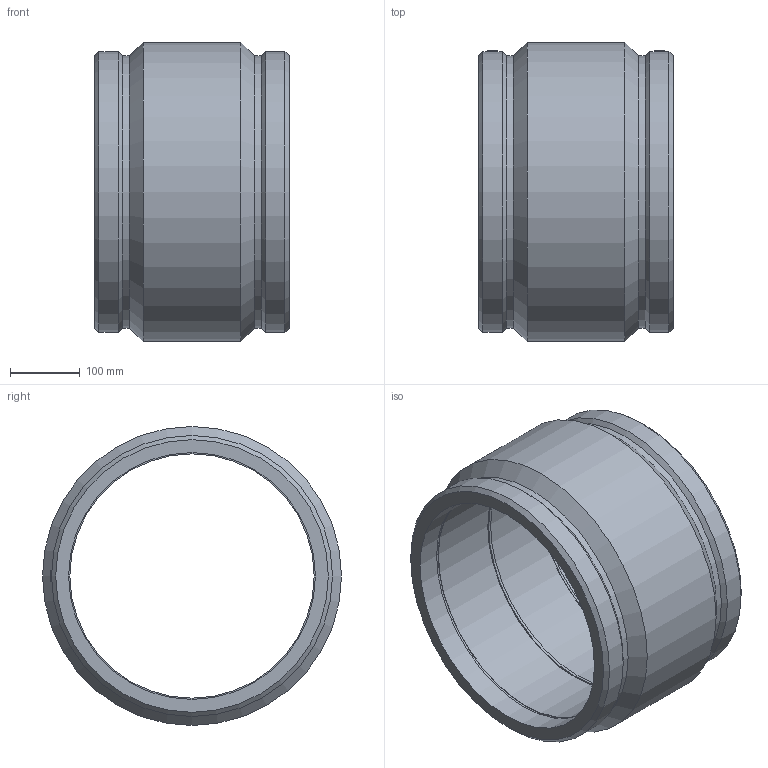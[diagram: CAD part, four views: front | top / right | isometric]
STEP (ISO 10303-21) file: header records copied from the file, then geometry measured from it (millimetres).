
FILE_DESCRIPTION(/* description */ ('PLASSON COUPLER 355 PN25'),/* implementation_level */ '2;1');
FILE_NAME(/* name */ 'C:\Dropbox\KIMPROJECTS-Inventor\99-16-3568-Processing\ElectroFusion Fittings\24.01.19\450103\450104315.ipt.stp',/* time_stamp */ '2019-01-24T13:53:48+02:00',/* author */ ('KIM'),/* organization */ (''),/* preprocessor_version */ 'ST-DEVELOPER v15.6',/* originating_system */ 'Autodesk Inventor 2015',/* authorisation */ '');
FILE_SCHEMA (('AUTOMOTIVE_DESIGN { 1 0 10303 214 3 1 1 }'));
Length unit declared in the file: millimetre
Products named in the file (1): 450104315
Bounding box: 280 x 430 x 430 mm (x, y, z)
Volume: 10516875.3 mm3; surface area: 761504.3 mm2
Topology: 1 solids, 1 shells, 36 faces, 68 edges, 42 vertices
Faces by surface type: cylinder 14, plane 12, cone 10
Full cylindrical faces by diameter (mm): 4 x2, 10 x2, 351.45 x1, 355 x4, 392.074 x2, 404.2 x2, 430 x1
Entity records: 812 total; most frequent: CARTESIAN_POINT 175, DIRECTION 142, EDGE_LOOP 72, ORIENTED_EDGE 72, AXIS2_PLACEMENT_3D 71, FACE_BOUND 36, FACE_OUTER_BOUND 36, VERTEX_POINT 36
